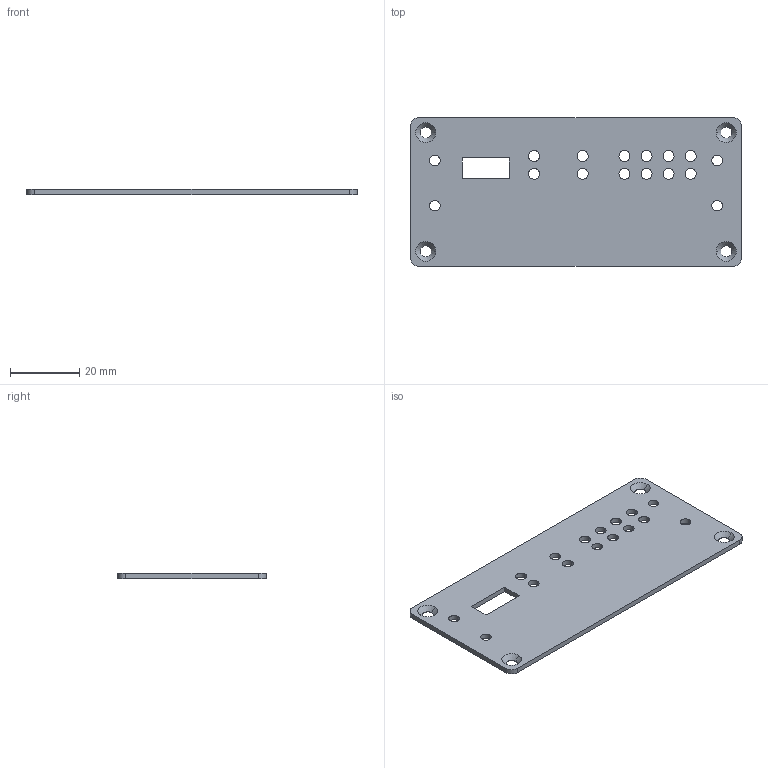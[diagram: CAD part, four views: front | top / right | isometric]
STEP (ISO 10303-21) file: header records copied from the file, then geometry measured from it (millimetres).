
FILE_DESCRIPTION (( 'STEP AP214' ), '1' );
FILE_NAME ('5162Panel.STEP', '2012-08-23T16:31:56', ( 'Mike' ), ( 'Windows User' ), 'SwSTEP 2.0', 'SolidWorks 2012', '' );
FILE_SCHEMA (( 'AUTOMOTIVE_DESIGN' ));
Length unit declared in the file: inch
Products named in the file (1): 5162Panel
Bounding box: 95.25 x 42.85 x 1.5 mm (x, y, z)
Volume: 5711.6 mm3; surface area: 8418.3 mm2
Topology: 1 solids, 1 shells, 62 faces, 172 edges, 112 vertices
Faces by surface type: cylinder 44, plane 10, cone 8
Entity records: 2152 total; most frequent: DIRECTION 394, CARTESIAN_POINT 347, ORIENTED_EDGE 344, EDGE_CURVE 172, AXIS2_PLACEMENT_3D 159, VERTEX_POINT 112, EDGE_LOOP 104, CIRCLE 96
